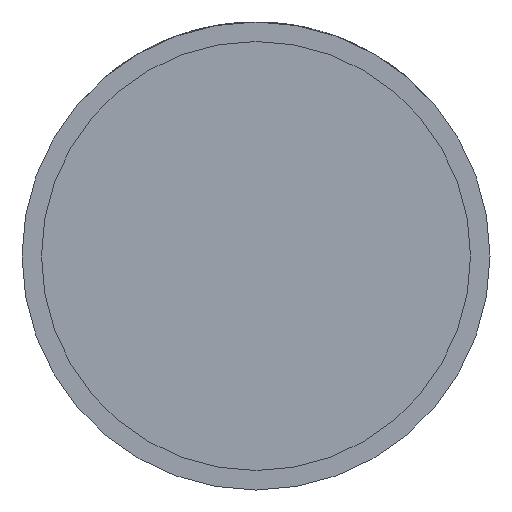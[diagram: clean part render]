
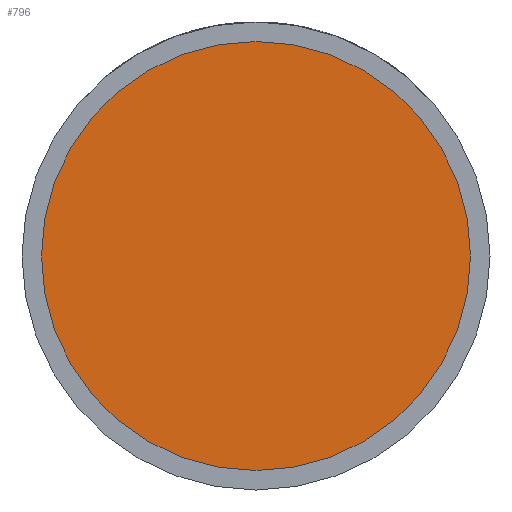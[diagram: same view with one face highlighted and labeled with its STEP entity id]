
A CAD part, front view. The second image highlights one B-rep face of the part: STEP entity #796.
In plain terms, the highlighted planar face has unit normal (0, -1, 0).
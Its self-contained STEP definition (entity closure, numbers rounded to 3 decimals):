
#47 = PLANE ( 'NONE',  #319 ) ;
#317 = CARTESIAN_POINT ( 'NONE',  ( 0., -17.5, 0. ) ) ;
#319 = AXIS2_PLACEMENT_3D ( 'NONE', #699, #3931, #2971 ) ;
#361 = CIRCLE ( 'NONE', #913, 22. ) ;
#699 = CARTESIAN_POINT ( 'NONE',  ( 22., -17.5, 0. ) ) ;
#796 = ADVANCED_FACE ( 'NONE', ( #2625 ), #47, .T. ) ;
#883 = ORIENTED_EDGE ( 'NONE', *, *, #3582, .T. ) ;
#892 = ORIENTED_EDGE ( 'NONE', *, *, #2456, .T. ) ;
#913 = AXIS2_PLACEMENT_3D ( 'NONE', #317, #1649, #993 ) ;
#993 = DIRECTION ( 'NONE',  ( 1., 0., 0. ) ) ;
#1141 = DIRECTION ( 'NONE',  ( 0., -1., 0. ) ) ;
#1152 = CARTESIAN_POINT ( 'NONE',  ( -22., -17.5, 0. ) ) ;
#1162 = DIRECTION ( 'NONE',  ( 1., 0., 0. ) ) ;
#1649 = DIRECTION ( 'NONE',  ( 0., -1., 0. ) ) ;
#2456 = EDGE_CURVE ( 'NONE', #4165, #3270, #361, .T. ) ;
#2625 = FACE_OUTER_BOUND ( 'NONE', #3917, .T. ) ;
#2971 = DIRECTION ( 'NONE',  ( 1., 0., 0. ) ) ;
#3128 = CIRCLE ( 'NONE', #3692, 22. ) ;
#3270 = VERTEX_POINT ( 'NONE', #3283 ) ;
#3283 = CARTESIAN_POINT ( 'NONE',  ( 22., -17.5, 0. ) ) ;
#3582 = EDGE_CURVE ( 'NONE', #3270, #4165, #3128, .T. ) ;
#3692 = AXIS2_PLACEMENT_3D ( 'NONE', #4117, #1141, #1162 ) ;
#3917 = EDGE_LOOP ( 'NONE', ( #883, #892 ) ) ;
#3931 = DIRECTION ( 'NONE',  ( 0., -1., 0. ) ) ;
#4117 = CARTESIAN_POINT ( 'NONE',  ( 0., -17.5, 0. ) ) ;
#4165 = VERTEX_POINT ( 'NONE', #1152 ) ;
